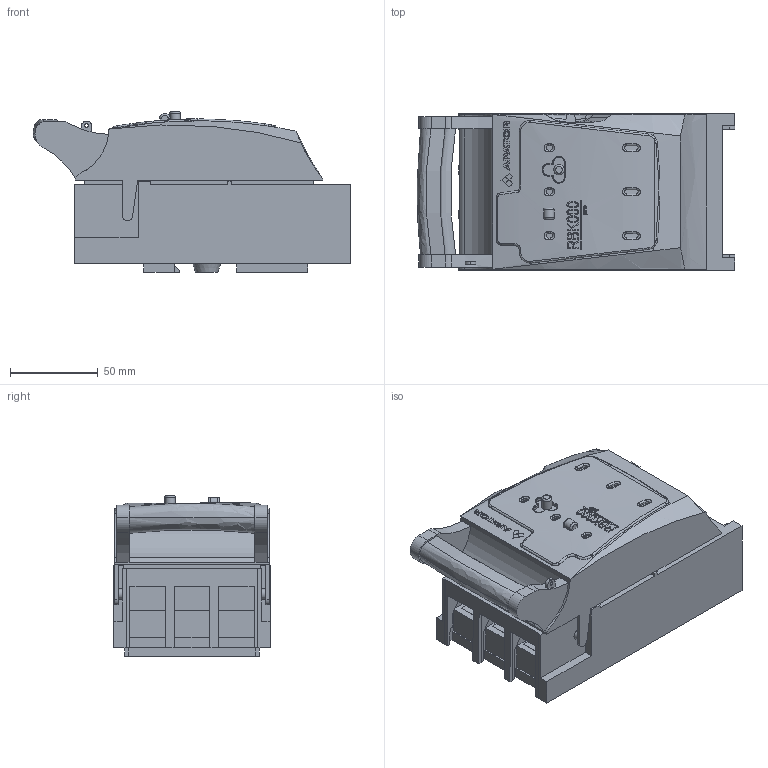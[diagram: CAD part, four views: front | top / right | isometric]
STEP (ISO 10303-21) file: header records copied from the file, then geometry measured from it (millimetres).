
FILE_DESCRIPTION(/* description */ (''),/* implementation_level */ '2;1');
FILE_NAME(/* name */ 'RBK 000 pro - 63-823191-011.stp',/* time_stamp */ '2019-03-05T11:15:33+01:00',/* author */ (''),/* organization */ (''),/* preprocessor_version */ 'ST-DEVELOPER v16',/* originating_system */ 'SIEMENS PLM Software NX 10.0',/* authorisation */ '');
FILE_SCHEMA (('AUTOMOTIVE_DESIGN { 1 0 10303 214 3 1 1 1 }'));
Products named in the file (1): 710_1A04BEC5vzht
Bounding box: 180.71 x 89 x 91.5 mm (x, y, z)
Volume: 869802.6 mm3; surface area: 100969.1 mm2
Topology: 1 solids, 1 shells, 1282 faces, 3610 edges, 2384 vertices
Faces by surface type: plane 1002, cylinder 107, extrusion 99, bspline 54, torus 18, cone 2
Full cylindrical faces by diameter (mm): 2 x1, 5.8 x2, 5.86 x1, 6.5 x2, 8.5 x6
Entity records: 56936 total; most frequent: CARTESIAN_POINT 16494, ORIENTED_EDGE 7178, DIRECTION 5936, EDGE_CURVE 3589, VERTEX_POINT 2380, AXIS2_PLACEMENT_3D 1996, VECTOR 1944, LINE 1845
